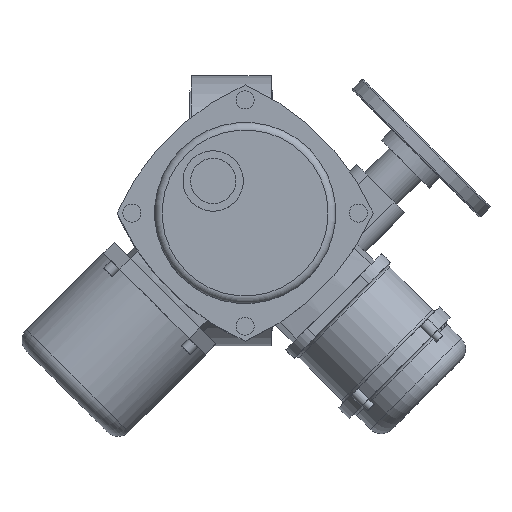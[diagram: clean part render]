
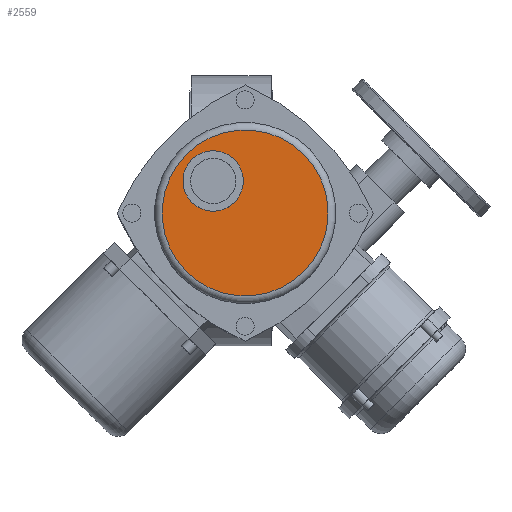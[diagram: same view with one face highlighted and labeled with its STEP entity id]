
A CAD part, top view. The second image highlights one B-rep face of the part: STEP entity #2559.
In plain terms, the highlighted planar face has unit normal (0, 0, 1).
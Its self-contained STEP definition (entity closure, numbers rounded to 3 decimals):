
#2559=ADVANCED_FACE('',(#4957,#4959),#4961,.T.);
#4957=FACE_BOUND('',#4958,.T.);
#4958=EDGE_LOOP('',(#6373));
#4959=FACE_BOUND('',#4960,.T.);
#4960=EDGE_LOOP('',(#6374));
#4961=PLANE('',#4962);
#4962=AXIS2_PLACEMENT_3D('',#4963,#4964,#4965);
#4963=CARTESIAN_POINT('',(9.192,-2.121,353.));
#4964=DIRECTION('',(0.,0.,1.));
#4965=DIRECTION('',(0.707,0.707,0.));
#6373=ORIENTED_EDGE('',*,*,#7008,.T.);
#6374=ORIENTED_EDGE('',*,*,#7069,.F.);
#7008=EDGE_CURVE('',#8048,#8048,#8049,.T.);
#7069=EDGE_CURVE('',#8140,#8140,#8141,.T.);
#8048=VERTEX_POINT('',#12875);
#8049=CIRCLE('',#12876,55.);
#8140=VERTEX_POINT('',#13132);
#8141=CIRCLE('',#13133,20.);
#12875=CARTESIAN_POINT('',(48.083,36.77,353.));
#12876=AXIS2_PLACEMENT_3D('',#12877,#12878,#12879);
#12877=CARTESIAN_POINT('',(9.192,-2.121,353.));
#12878=DIRECTION('',(0.,0.,1.));
#12879=DIRECTION('',(0.707,0.707,0.));
#13132=CARTESIAN_POINT('',(2.121,33.234,353.));
#13133=AXIS2_PLACEMENT_3D('',#13134,#13135,#13136);
#13134=CARTESIAN_POINT('',(-12.021,19.092,353.));
#13135=DIRECTION('',(0.,0.,1.));
#13136=DIRECTION('',(0.707,0.707,0.));
